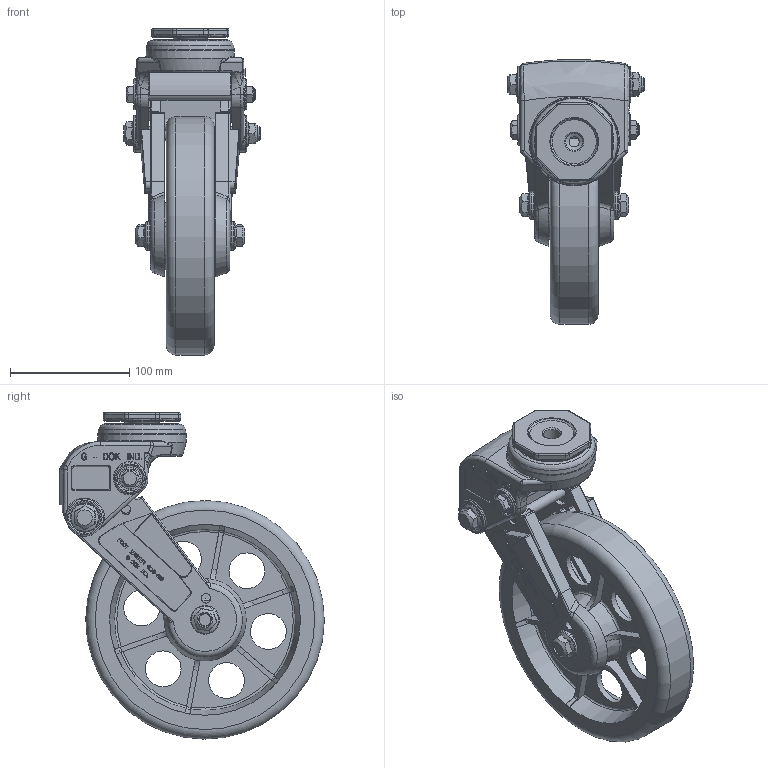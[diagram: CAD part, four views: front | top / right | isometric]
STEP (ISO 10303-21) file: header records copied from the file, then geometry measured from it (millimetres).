
FILE_DESCRIPTION((''),'2;1');
FILE_NAME('C:\Documents and Settings\Administrator\바탕 화면\3D STEP\GDS-SERIES\GDS-200\GDS-200A-SS.stp','2010-12-27T13:55:27',('Administrator'),(''),'Autodesk Inventor 2009','Autodesk Inventor 2009','');
FILE_SCHEMA(('AUTOMOTIVE_DESIGN { 1 0 10303 214 1 1 1 1 }'));
Length unit declared in the file: millimetre
Products named in the file (1): GDS-200A-SS
Bounding box: 114.5 x 221.83 x 273.46 mm (x, y, z)
Volume: 1210138.1 mm3; surface area: 266916.5 mm2
Topology: 12 solids, 12 shells, 2582 faces, 7019 edges, 4583 vertices
Faces by surface type: bspline 1226, plane 841, cylinder 329, torus 91, cone 89, sphere 6
Full cylindrical faces by diameter (mm): 8 x4, 8.5 x1, 10 x4, 10.7 x2, 12 x2, 12.1 x2, 12.2 x2, 14.21 x1, 15 x4, 18 x1, 18.6 x2, 18.9 x1, 20 x1, 20.4 x2, 21.667 x4, 24 x4, 26 x2, 27 x2, 28.333 x4, 29 x1, 30 x7, 30.6 x1, 31 x2, 35 x2, 39 x1, 41.54 x1, 42.34 x1, 74 x1, 200 x1
Entity records: 102117 total; most frequent: CARTESIAN_POINT 46217, ORIENTED_EDGE 13498, DIRECTION 8025, EDGE_CURVE 6749, VERTEX_POINT 4510, EDGE_LOOP 2963, VECTOR 2919, LINE 2919
